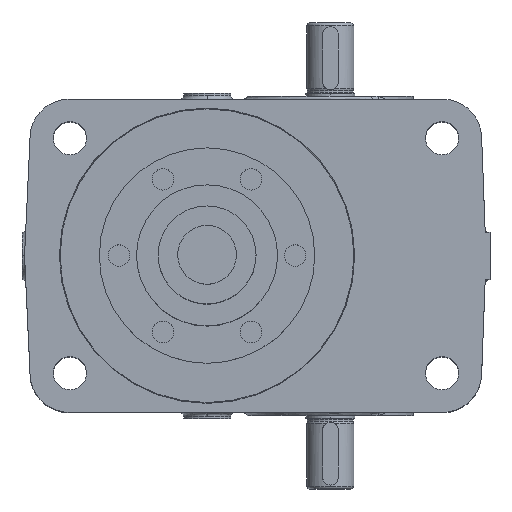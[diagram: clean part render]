
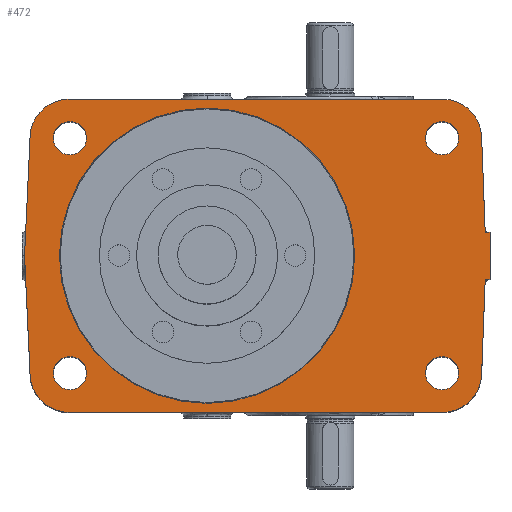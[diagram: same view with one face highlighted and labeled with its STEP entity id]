
A CAD part, top view. The second image highlights one B-rep face of the part: STEP entity #472.
In plain terms, the highlighted planar face has unit normal (0, 0, 1).
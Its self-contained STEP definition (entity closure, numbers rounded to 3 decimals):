
#472=ADVANCED_FACE('',(#1432,#1433,#1434,#1435,#1436,#1437),#1438,.T.);
#1432=FACE_OUTER_BOUND('',#4915,.T.);
#1433=FACE_BOUND('',#4916,.T.);
#1434=FACE_BOUND('',#4917,.T.);
#1435=FACE_BOUND('',#4918,.T.);
#1436=FACE_BOUND('',#4919,.T.);
#1437=FACE_BOUND('',#4920,.T.);
#1438=PLANE('',#4921);
#4915=EDGE_LOOP('',(#8290,#8291,#8292,#8293,#8294,#8295,#8296,#8297,#8298,#8299,#8300,#8301,#8302));
#4916=EDGE_LOOP('',(#8303,#8304));
#4917=EDGE_LOOP('',(#8305,#8306));
#4918=EDGE_LOOP('',(#8307,#8308));
#4919=EDGE_LOOP('',(#8309,#8310));
#4920=EDGE_LOOP('',(#8311,#8312));
#4921=AXIS2_PLACEMENT_3D('',#8313,#8314,#8315);
#8290=ORIENTED_EDGE('',*,*,#10506,.F.);
#8291=ORIENTED_EDGE('',*,*,#10507,.F.);
#8292=ORIENTED_EDGE('',*,*,#10504,.T.);
#8293=ORIENTED_EDGE('',*,*,#10233,.T.);
#8294=ORIENTED_EDGE('',*,*,#10235,.T.);
#8295=ORIENTED_EDGE('',*,*,#10237,.T.);
#8296=ORIENTED_EDGE('',*,*,#10238,.T.);
#8297=ORIENTED_EDGE('',*,*,#10241,.T.);
#8298=ORIENTED_EDGE('',*,*,#10368,.T.);
#8299=ORIENTED_EDGE('',*,*,#10508,.F.);
#8300=ORIENTED_EDGE('',*,*,#10463,.T.);
#8301=ORIENTED_EDGE('',*,*,#10509,.T.);
#8302=ORIENTED_EDGE('',*,*,#10510,.T.);
#8303=ORIENTED_EDGE('',*,*,#10247,.T.);
#8304=ORIENTED_EDGE('',*,*,#9679,.T.);
#8305=ORIENTED_EDGE('',*,*,#10245,.T.);
#8306=ORIENTED_EDGE('',*,*,#9683,.T.);
#8307=ORIENTED_EDGE('',*,*,#10244,.T.);
#8308=ORIENTED_EDGE('',*,*,#9687,.T.);
#8309=ORIENTED_EDGE('',*,*,#10243,.T.);
#8310=ORIENTED_EDGE('',*,*,#9691,.T.);
#8311=ORIENTED_EDGE('',*,*,#10242,.T.);
#8312=ORIENTED_EDGE('',*,*,#9695,.T.);
#8313=CARTESIAN_POINT('',(25.0,0.,160.0));
#8314=DIRECTION('',(0.0,0.0,1.0));
#8315=DIRECTION('',(1.0,0.0,0.0));
#9679=EDGE_CURVE('',#11222,#11220,#11223,.T.);
#9683=EDGE_CURVE('',#11230,#11227,#11231,.T.);
#9687=EDGE_CURVE('',#11238,#11235,#11239,.T.);
#9691=EDGE_CURVE('',#11246,#11243,#11247,.T.);
#9695=EDGE_CURVE('',#11254,#11251,#11255,.T.);
#10233=EDGE_CURVE('',#12139,#12141,#12143,.T.);
#10235=EDGE_CURVE('',#12141,#12144,#12146,.T.);
#10237=EDGE_CURVE('',#12144,#12147,#12149,.T.);
#10238=EDGE_CURVE('',#12147,#12150,#12151,.T.);
#10241=EDGE_CURVE('',#12150,#12153,#12155,.T.);
#10242=EDGE_CURVE('',#11251,#11254,#12156,.T.);
#10243=EDGE_CURVE('',#11243,#11246,#12157,.T.);
#10244=EDGE_CURVE('',#11235,#11238,#12158,.T.);
#10245=EDGE_CURVE('',#11227,#11230,#12159,.T.);
#10247=EDGE_CURVE('',#11220,#11222,#12161,.T.);
#10368=EDGE_CURVE('',#12153,#12360,#12361,.T.);
#10463=EDGE_CURVE('',#12502,#12503,#12504,.T.);
#10504=EDGE_CURVE('',#12559,#12139,#12560,.T.);
#10506=EDGE_CURVE('',#12562,#12563,#12564,.T.);
#10507=EDGE_CURVE('',#12559,#12562,#12565,.T.);
#10508=EDGE_CURVE('',#12502,#12360,#12566,.T.);
#10509=EDGE_CURVE('',#12503,#12567,#12568,.T.);
#10510=EDGE_CURVE('',#12567,#12563,#12569,.T.);
#11220=VERTEX_POINT('',#14221);
#11222=VERTEX_POINT('',#14224);
#11223=CIRCLE('',#14225,75.402);
#11227=VERTEX_POINT('',#14230);
#11230=VERTEX_POINT('',#14234);
#11231=CIRCLE('',#14235,8.5);
#11235=VERTEX_POINT('',#14240);
#11238=VERTEX_POINT('',#14244);
#11239=CIRCLE('',#14245,8.5);
#11243=VERTEX_POINT('',#14250);
#11246=VERTEX_POINT('',#14254);
#11247=CIRCLE('',#14255,8.5);
#11251=VERTEX_POINT('',#14260);
#11254=VERTEX_POINT('',#14264);
#11255=CIRCLE('',#14265,8.5);
#12139=VERTEX_POINT('',#17778);
#12141=VERTEX_POINT('',#17781);
#12143=LINE('',#17784,#17785);
#12144=VERTEX_POINT('',#17786);
#12146=LINE('',#17789,#17790);
#12147=VERTEX_POINT('',#17791);
#12149=LINE('',#17794,#17795);
#12150=VERTEX_POINT('',#17796);
#12151=LINE('',#17797,#17798);
#12153=VERTEX_POINT('',#17801);
#12155=LINE('',#17804,#17805);
#12156=CIRCLE('',#17806,8.5);
#12157=CIRCLE('',#17807,8.5);
#12158=CIRCLE('',#17808,8.5);
#12159=CIRCLE('',#17809,8.5);
#12161=CIRCLE('',#17811,75.402);
#12360=VERTEX_POINT('',#19209);
#12361=CIRCLE('',#19210,20.0);
#12502=VERTEX_POINT('',#19491);
#12503=VERTEX_POINT('',#19492);
#12504=CIRCLE('',#19493,20.0);
#12559=VERTEX_POINT('',#20252);
#12560=CIRCLE('',#20253,20.0);
#12562=VERTEX_POINT('',#20256);
#12563=VERTEX_POINT('',#20257);
#12564=CIRCLE('',#20258,20.0);
#12565=LINE('',#20259,#20260);
#12566=LINE('',#20261,#20262);
#12567=VERTEX_POINT('',#20263);
#12568=LINE('',#20264,#20265);
#12569=LINE('',#20266,#20267);
#14221=CARTESIAN_POINT('',(75.402,0.0,160.0));
#14224=CARTESIAN_POINT('',(-75.402,0.,160.0));
#14225=AXIS2_PLACEMENT_3D('',#21388,#21389,#21390);
#14230=CARTESIAN_POINT('',(-61.5,-60.0,160.0));
#14234=CARTESIAN_POINT('',(-78.5,-60.0,160.0));
#14235=AXIS2_PLACEMENT_3D('',#21396,#21397,#21398);
#14240=CARTESIAN_POINT('',(128.5,-60.0,160.0));
#14244=CARTESIAN_POINT('',(111.5,-60.0,160.0));
#14245=AXIS2_PLACEMENT_3D('',#21404,#21405,#21406);
#14250=CARTESIAN_POINT('',(128.5,60.0,160.0));
#14254=CARTESIAN_POINT('',(111.5,60.0,160.0));
#14255=AXIS2_PLACEMENT_3D('',#21412,#21413,#21414);
#14260=CARTESIAN_POINT('',(-61.5,60.0,160.0));
#14264=CARTESIAN_POINT('',(-78.5,60.0,160.0));
#14265=AXIS2_PLACEMENT_3D('',#21420,#21421,#21422);
#17778=CARTESIAN_POINT('',(140.222,-60.749,160.0));
#17781=CARTESIAN_POINT('',(142.05,-12.0,160.0));
#17784=CARTESIAN_POINT('',(140.222,-60.749,160.0));
#17785=VECTOR('',#22105,1000.0);
#17786=CARTESIAN_POINT('',(144.5,-12.0,160.0));
#17789=CARTESIAN_POINT('',(25.0,-12.0,160.0));
#17790=VECTOR('',#22107,1000.0);
#17791=CARTESIAN_POINT('',(144.5,12.0,160.0));
#17794=CARTESIAN_POINT('',(144.5,0.,160.0));
#17795=VECTOR('',#22109,1000.0);
#17796=CARTESIAN_POINT('',(142.05,12.0,160.0));
#17797=CARTESIAN_POINT('',(25.0,12.0,160.0));
#17798=VECTOR('',#22110,1000.0);
#17801=CARTESIAN_POINT('',(140.222,60.749,160.0));
#17804=CARTESIAN_POINT('',(142.05,12.0,160.0));
#17805=VECTOR('',#22113,1000.0);
#17806=AXIS2_PLACEMENT_3D('',#22114,#22115,#22116);
#17807=AXIS2_PLACEMENT_3D('',#22117,#22118,#22119);
#17808=AXIS2_PLACEMENT_3D('',#22120,#22121,#22122);
#17809=AXIS2_PLACEMENT_3D('',#22123,#22124,#22125);
#17811=AXIS2_PLACEMENT_3D('',#22129,#22130,#22131);
#19209=CARTESIAN_POINT('',(120.236,80.0,160.0));
#19210=AXIS2_PLACEMENT_3D('',#22242,#22243,#22244);
#19491=CARTESIAN_POINT('',(-70.402,80.0,160.0));
#19492=CARTESIAN_POINT('',(-90.381,60.922,160.0));
#19493=AXIS2_PLACEMENT_3D('',#22321,#22322,#22323);
#20252=CARTESIAN_POINT('',(120.236,-80.0,160.0));
#20253=AXIS2_PLACEMENT_3D('',#22367,#22368,#22369);
#20256=CARTESIAN_POINT('',(-70.402,-80.0,160.0));
#20257=CARTESIAN_POINT('',(-90.381,-60.922,160.0));
#20258=AXIS2_PLACEMENT_3D('',#22371,#22372,#22373);
#20259=CARTESIAN_POINT('',(142.5,-80.0,160.0));
#20260=VECTOR('',#22374,1000.0);
#20261=CARTESIAN_POINT('',(-92.5,80.0,160.0));
#20262=VECTOR('',#22375,1000.0);
#20263=CARTESIAN_POINT('',(-93.192,0.,160.0));
#20264=CARTESIAN_POINT('',(-89.5,80.0,160.0));
#20265=VECTOR('',#22376,1000.0);
#20266=CARTESIAN_POINT('',(-92.5,-15.0,160.0));
#20267=VECTOR('',#22377,1000.0);
#21388=CARTESIAN_POINT('',(0.0,0.0,160.0));
#21389=DIRECTION('',(0.0,0.0,-1.0));
#21390=DIRECTION('',(1.0,0.0,0.0));
#21396=CARTESIAN_POINT('',(-70.0,-60.0,160.0));
#21397=DIRECTION('',(0.0,0.0,-1.0));
#21398=DIRECTION('',(1.0,0.0,0.0));
#21404=CARTESIAN_POINT('',(120.0,-60.0,160.0));
#21405=DIRECTION('',(0.0,0.0,-1.0));
#21406=DIRECTION('',(1.0,0.0,0.0));
#21412=CARTESIAN_POINT('',(120.0,60.0,160.0));
#21413=DIRECTION('',(0.0,0.0,-1.0));
#21414=DIRECTION('',(1.0,0.0,0.0));
#21420=CARTESIAN_POINT('',(-70.0,60.0,160.0));
#21421=DIRECTION('',(0.0,0.0,-1.0));
#21422=DIRECTION('',(1.0,0.0,0.0));
#22105=DIRECTION('',(0.037,0.999,0.0));
#22107=DIRECTION('',(1.0,0.0,-0.0));
#22109=DIRECTION('',(-0.0,1.0,0.0));
#22110=DIRECTION('',(-1.0,-0.0,0.0));
#22113=DIRECTION('',(-0.037,0.999,0.0));
#22114=CARTESIAN_POINT('',(-70.0,60.0,160.0));
#22115=DIRECTION('',(0.0,0.0,-1.0));
#22116=DIRECTION('',(1.0,0.0,0.0));
#22117=CARTESIAN_POINT('',(120.0,60.0,160.0));
#22118=DIRECTION('',(0.0,0.0,-1.0));
#22119=DIRECTION('',(1.0,0.0,0.0));
#22120=CARTESIAN_POINT('',(120.0,-60.0,160.0));
#22121=DIRECTION('',(0.0,0.0,-1.0));
#22122=DIRECTION('',(1.0,0.0,0.0));
#22123=CARTESIAN_POINT('',(-70.0,-60.0,160.0));
#22124=DIRECTION('',(0.0,0.0,-1.0));
#22125=DIRECTION('',(1.0,0.0,0.0));
#22129=CARTESIAN_POINT('',(0.0,0.0,160.0));
#22130=DIRECTION('',(0.0,0.0,-1.0));
#22131=DIRECTION('',(1.0,0.0,0.0));
#22242=CARTESIAN_POINT('',(120.236,60.0,160.0));
#22243=DIRECTION('',(0.0,0.0,1.0));
#22244=DIRECTION('',(-1.0,0.0,0.0));
#22321=CARTESIAN_POINT('',(-70.402,60.0,160.0));
#22322=DIRECTION('',(0.0,0.0,1.0));
#22323=DIRECTION('',(1.0,0.0,0.0));
#22367=CARTESIAN_POINT('',(120.236,-60.0,160.0));
#22368=DIRECTION('',(0.0,0.0,1.0));
#22369=DIRECTION('',(1.0,0.0,0.0));
#22371=CARTESIAN_POINT('',(-70.402,-60.0,160.0));
#22372=DIRECTION('',(0.0,0.0,-1.0));
#22373=DIRECTION('',(-1.0,0.0,0.0));
#22374=DIRECTION('',(-1.0,-0.0,-0.0));
#22375=DIRECTION('',(1.0,0.,-0.0));
#22376=DIRECTION('',(-0.046,-0.999,-0.0));
#22377=DIRECTION('',(0.046,-0.999,-0.0));
